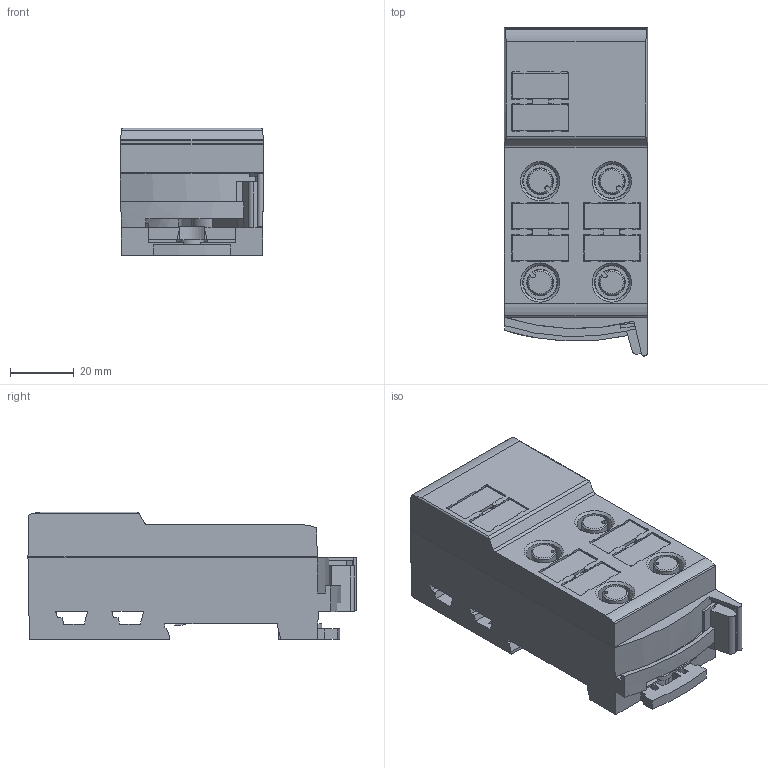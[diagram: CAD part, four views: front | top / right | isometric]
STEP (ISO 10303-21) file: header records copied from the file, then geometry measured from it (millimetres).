
FILE_DESCRIPTION(/* description */ ('STEP AP203'),/* implementation_level */ '2;1');
FILE_NAME(/* name */ 'AC5200',/* time_stamp */ '2025-02-11T11:05:05+01:00',/* author */ ('License CC BY-ND 4.0'),/* organization */ ('CADENAS'),/* preprocessor_version */ 'ST-DEVELOPER v19.3',/* originating_system */ 'PARTsolutions',/* authorisation */ ' ');
FILE_SCHEMA (('CONFIG_CONTROL_DESIGN'));
Length unit declared in the file: millimetre
Products named in the file (1): AC5200
Bounding box: 45 x 102.99 x 40.1 mm (x, y, z)
Volume: 132903.5 mm3; surface area: 31867.4 mm2
Topology: 1 solids, 1 shells, 640 faces, 1828 edges, 1196 vertices
Faces by surface type: plane 482, cylinder 142, cone 8, torus 8
Full cylindrical faces by diameter (mm): 4.3 x1, 4.478 x1, 10.92 x4
Entity records: 25167 total; most frequent: CARTESIAN_POINT 3713, ORIENTED_EDGE 3628, DIRECTION 3414, EDGE_CURVE 1814, LINE 1456, VECTOR 1456, VERTEX_POINT 1196, AXIS2_PLACEMENT_3D 979
